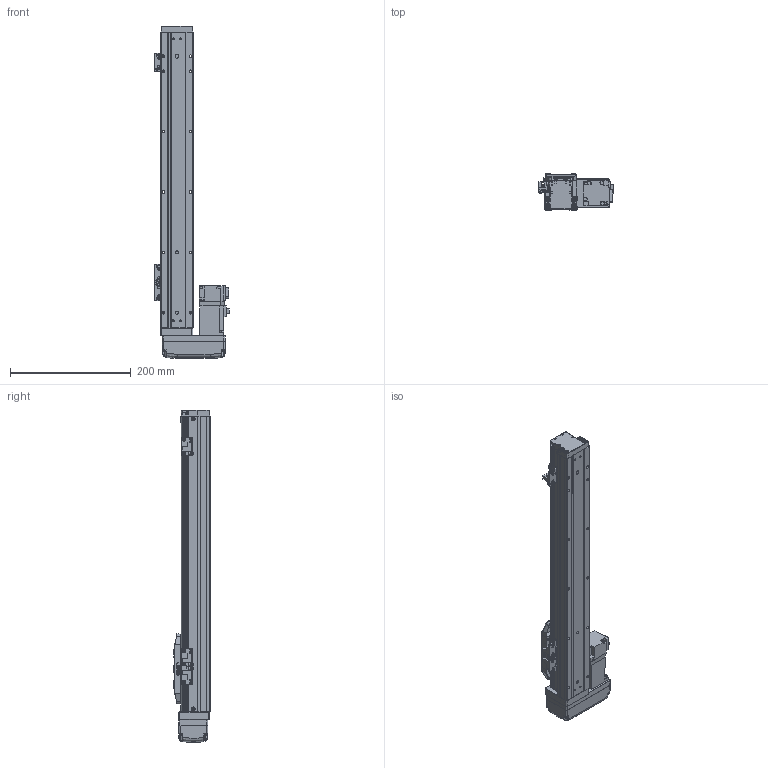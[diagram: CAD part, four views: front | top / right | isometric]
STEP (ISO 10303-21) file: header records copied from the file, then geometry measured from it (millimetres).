
FILE_DESCRIPTION (( 'STEP AP203' ), '1' );
FILE_NAME ('GTH5-350-BR-M10-C4.step', '2022-09-23T00:50:46', ( '微软用户' ), ( '微软中国' ), 'SwSTEP 2.0', 'SolidWorks 2020', '' );
FILE_SCHEMA (( 'CONFIG_CONTROL_DESIGN' ));
Length unit declared in the file: millimetre
Products named in the file (19): GTH50-004; GTH50-023; HG-KR13; GBT 70.3-M3℅6; GBT 70.1-M3℅6; GTH50-027-1_BTHA50-027-2; BTH-M3X5X6; GBT96.1-2002 3×0.8; GTH50-026; GTH50-001_350; GTH50-024; GTH5-350-BR-M10-C4; GBT 70.1-M4×16; GBT 70.1-M2.5×6; GTH50-003; GTH50-028; GTH50-006; GTH50-013; GTH50-022-1
Assembly tree (57 placements, depth 2):
  GTH5-350-BR-M10-C4
    GTH50-006
    GTH50-004
    GBT 70.3-M3℅6  x4
    BTH-M3X5X6  x8
    GTH50-001_350
    GBT 70.1-M4×16  x8
    GTH50-003
    GTH50-013
    GTH50-023  x3
    GBT 70.1-M3℅6  x12
    GBT96.1-2002 3×0.8  x6
    GTH50-024  x3
    GBT 70.1-M2.5×6  x2
    GTH50-028  x2
    GTH50-022-1
    HG-KR13
    GTH50-027-1_BTHA50-027-2
    GTH50-026
Bounding box: 123.6 x 60 x 550 mm (x, y, z)
Volume: 1305560 mm3; surface area: 244127.6 mm2
Topology: 59 solids, 59 shells, 2152 faces, 4992 edges, 3060 vertices
Faces by surface type: plane 1142, cylinder 581, cone 219, torus 162, bspline 40, sphere 8
Entity records: 39864 total; most frequent: CARTESIAN_POINT 7899, DIRECTION 6129, ORIENTED_EDGE 5898, EDGE_CURVE 2949, AXIS2_PLACEMENT_3D 2128, LINE 1873, VECTOR 1873, VERTEX_POINT 1862
